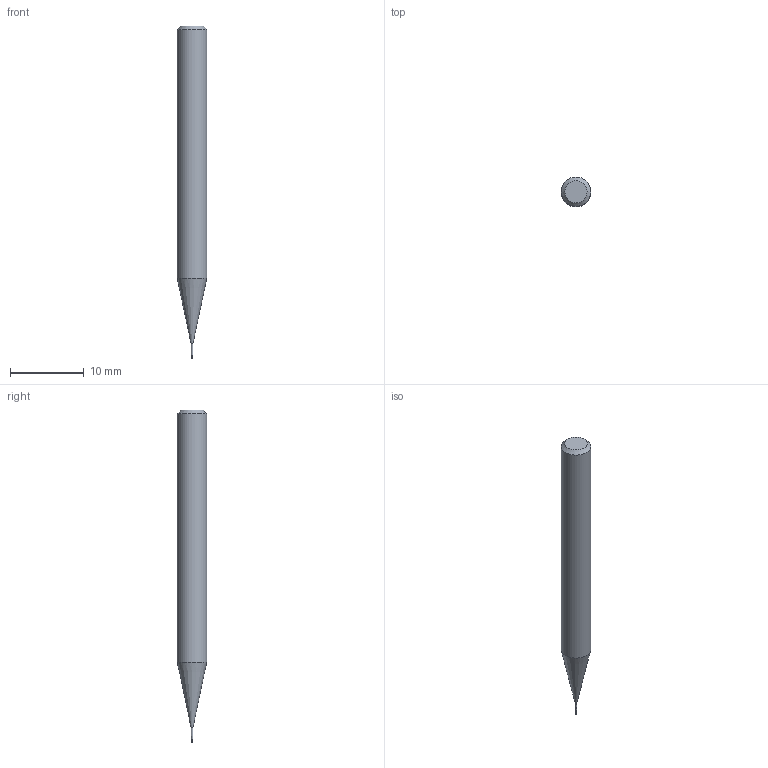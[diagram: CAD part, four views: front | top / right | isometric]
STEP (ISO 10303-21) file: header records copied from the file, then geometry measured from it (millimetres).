
FILE_DESCRIPTION((''),'2;1');
FILE_NAME('C:\Users\nsx150\AppData\Local\Temp\Mastercam 2021\YKS1SUSFZB\TEMP.step','2025-06-23T14:03:02',(''),(''),'STEP Write','Mastercam 2021 ... CNC Software, Inc.','');
FILE_SCHEMA(('AUTOMOTIVE_DESIGN'));
Length unit declared in the file: millimetre
Products named in the file (1): None
Bounding box: 4 x 4 x 45 mm (x, y, z)
Volume: 467.8 mm3; surface area: 500 mm2
Topology: 2 solids, 2 shells, 11 faces, 16 edges, 9 vertices
Faces by surface type: plane 4, cylinder 3, cone 3, torus 1
Full cylindrical faces by diameter (mm): 0.192 x1, 0.2 x1, 4 x1
Entity records: 253 total; most frequent: DIRECTION 44, CARTESIAN_POINT 31, AXIS2_PLACEMENT_3D 22, ORIENTED_EDGE 18, EDGE_LOOP 18, STYLED_ITEM 14, ADVANCED_FACE 11, FACE_BOUND 11
